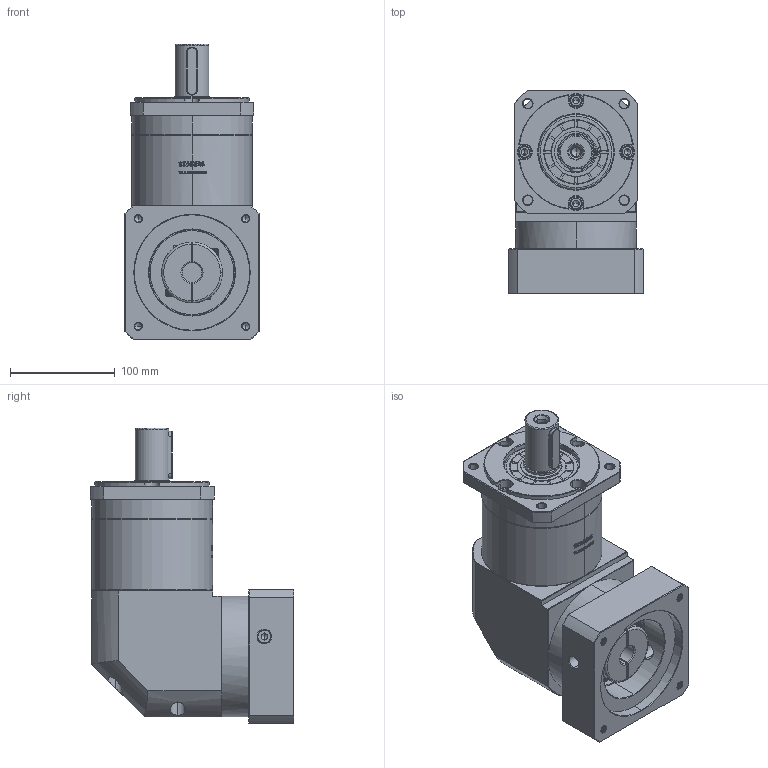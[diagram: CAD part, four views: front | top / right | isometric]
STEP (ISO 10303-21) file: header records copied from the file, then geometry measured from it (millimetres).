
FILE_DESCRIPTION (( 'STEP AP214' ), '1' );
FILE_NAME ('ZFR120A-D32-L2-19-110-145-M8.step', '2023-03-08T08:25:17', ( '' ), ( '' ), 'SwSTEP 2.0', 'SolidWorks 2016', '' );
FILE_SCHEMA (( 'AUTOMOTIVE_DESIGN' ));
Length unit declared in the file: millimetre
Products named in the file (1): ZFR120A-D32-L2-19-110-145-M8
Bounding box: 128 x 193.9 x 281.5 mm (x, y, z)
Volume: 3291114.6 mm3; surface area: 262985 mm2
Topology: 6 solids, 6 shells, 2870 faces, 7663 edges, 4938 vertices
Faces by surface type: plane 1484, bspline 607, cylinder 434, cone 337, torus 8
Entity records: 158071 total; most frequent: CARTESIAN_POINT 60798, ORIENTED_EDGE 15266, DIRECTION 11096, EDGE_CURVE 7633, VERTEX_POINT 4938, VECTOR 4748, LINE 4748, AXIS2_PLACEMENT_3D 3174
